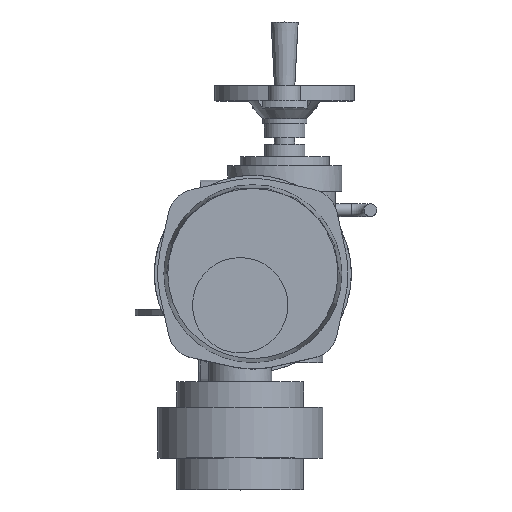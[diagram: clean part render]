
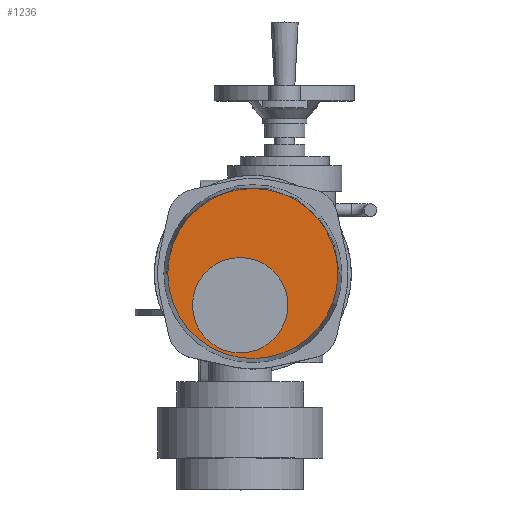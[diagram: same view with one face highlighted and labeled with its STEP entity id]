
A CAD part, top view. The second image highlights one B-rep face of the part: STEP entity #1236.
In plain terms, the highlighted planar face has unit normal (0, 0, 1).
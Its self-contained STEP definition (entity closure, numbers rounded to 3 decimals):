
#1236=ADVANCED_FACE('',(#2740,#2742),#2744,.T.);
#2740=FACE_BOUND('',#2741,.T.);
#2741=EDGE_LOOP('',(#3748));
#2742=FACE_BOUND('',#2743,.T.);
#2743=EDGE_LOOP('',(#3749));
#2744=PLANE('',#2745);
#2745=AXIS2_PLACEMENT_3D('',#2746,#2747,#2748);
#2746=CARTESIAN_POINT('',(15.,30.,427.));
#2747=DIRECTION('',(0.,0.,1.));
#2748=DIRECTION('',(-1.,0.,0.));
#3748=ORIENTED_EDGE('',*,*,#4242,.T.);
#3749=ORIENTED_EDGE('',*,*,#4284,.F.);
#4242=EDGE_CURVE('',#4851,#4851,#4852,.T.);
#4284=EDGE_CURVE('',#4913,#4913,#4914,.T.);
#4851=VERTEX_POINT('',#7584);
#4852=CIRCLE('',#7585,66.908);
#4913=VERTEX_POINT('',#7747);
#4914=CIRCLE('',#7748,37.5);
#7584=CARTESIAN_POINT('',(-51.908,30.,427.));
#7585=AXIS2_PLACEMENT_3D('',#7586,#7587,#7588);
#7586=CARTESIAN_POINT('',(15.,30.,427.));
#7587=DIRECTION('',(0.,0.,1.));
#7588=DIRECTION('',(-1.,0.,0.));
#7747=CARTESIAN_POINT('',(-32.5,5.,427.));
#7748=AXIS2_PLACEMENT_3D('',#7749,#7750,#7751);
#7749=CARTESIAN_POINT('',(5.,5.,427.));
#7750=DIRECTION('',(0.,0.,1.));
#7751=DIRECTION('',(-1.,0.,0.));
